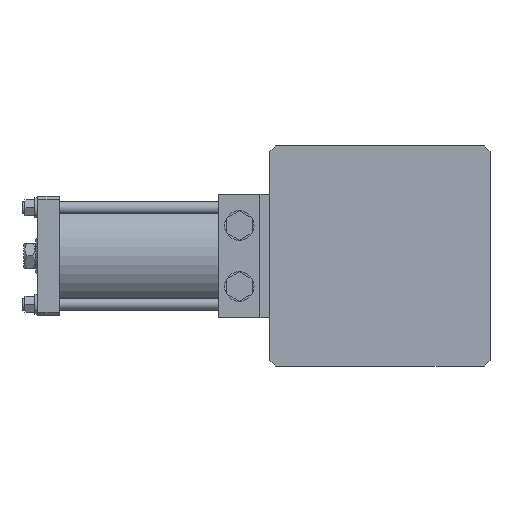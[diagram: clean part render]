
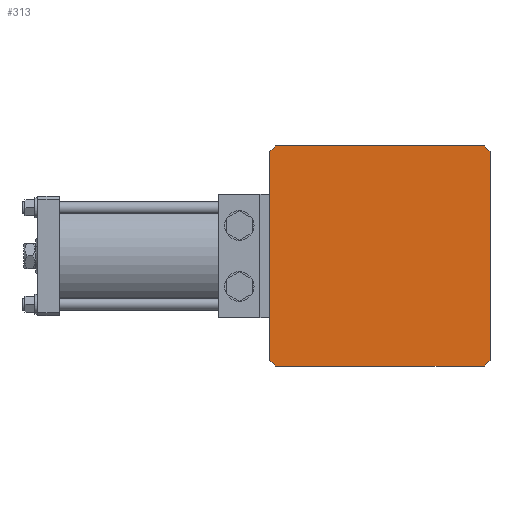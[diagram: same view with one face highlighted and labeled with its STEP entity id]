
A CAD part, front view. The second image highlights one B-rep face of the part: STEP entity #313.
In plain terms, the highlighted planar face has unit normal (0, -1, 0).
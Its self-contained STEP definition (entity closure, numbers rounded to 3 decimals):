
#28 = EDGE_CURVE ( 'NONE', #117, #9717, #4214, .T. ) ;
#117 = VERTEX_POINT ( 'NONE', #8187 ) ;
#313 = ADVANCED_FACE ( 'NONE', ( #8251 ), #4562, .F. ) ;
#530 = DIRECTION ( 'NONE',  ( 0., 0., 1. ) ) ;
#585 = VECTOR ( 'NONE', #530, 1000. ) ;
#613 = DIRECTION ( 'NONE',  ( 1., 0., 0. ) ) ;
#657 = CARTESIAN_POINT ( 'NONE',  ( 56., 0., 56. ) ) ;
#1407 = VERTEX_POINT ( 'NONE', #3390 ) ;
#1622 = CARTESIAN_POINT ( 'NONE',  ( 56., 0., 53. ) ) ;
#1668 = EDGE_CURVE ( 'NONE', #5667, #10205, #3327, .T. ) ;
#1704 = ORIENTED_EDGE ( 'NONE', *, *, #2023, .F. ) ;
#1789 = VECTOR ( 'NONE', #4190, 1000. ) ;
#1855 = CARTESIAN_POINT ( 'NONE',  ( 56., 0., -56. ) ) ;
#2023 = EDGE_CURVE ( 'NONE', #8799, #7524, #9387, .T. ) ;
#2207 = DIRECTION ( 'NONE',  ( 0., 0., 1. ) ) ;
#2241 = CARTESIAN_POINT ( 'NONE',  ( 0., 0., 0. ) ) ;
#2850 = DIRECTION ( 'NONE',  ( -0.707, 0., -0.707 ) ) ;
#2855 = LINE ( 'NONE', #4583, #4784 ) ;
#3019 = LINE ( 'NONE', #657, #4974 ) ;
#3030 = EDGE_CURVE ( 'NONE', #10205, #1407, #9400, .T. ) ;
#3327 = LINE ( 'NONE', #1622, #3965 ) ;
#3331 = VECTOR ( 'NONE', #4024, 1000. ) ;
#3390 = CARTESIAN_POINT ( 'NONE',  ( 56., 0., -53. ) ) ;
#3869 = ORIENTED_EDGE ( 'NONE', *, *, #6816, .F. ) ;
#3965 = VECTOR ( 'NONE', #9896, 1000. ) ;
#4024 = DIRECTION ( 'NONE',  ( 0., 0., -1. ) ) ;
#4038 = EDGE_CURVE ( 'NONE', #7524, #7769, #2855, .T. ) ;
#4190 = DIRECTION ( 'NONE',  ( -0.707, 0., 0.707 ) ) ;
#4214 = LINE ( 'NONE', #1855, #10504 ) ;
#4562 = PLANE ( 'NONE',  #10629 ) ;
#4583 = CARTESIAN_POINT ( 'NONE',  ( -56., 0., 53. ) ) ;
#4784 = VECTOR ( 'NONE', #8718, 1000. ) ;
#4974 = VECTOR ( 'NONE', #613, 1000. ) ;
#5456 = DIRECTION ( 'NONE',  ( -1., 0., 0. ) ) ;
#5464 = CARTESIAN_POINT ( 'NONE',  ( -56., 0., 56. ) ) ;
#5490 = ORIENTED_EDGE ( 'NONE', *, *, #4038, .F. ) ;
#5533 = DIRECTION ( 'NONE',  ( 0., 1., 0. ) ) ;
#5667 = VERTEX_POINT ( 'NONE', #5815 ) ;
#5775 = CARTESIAN_POINT ( 'NONE',  ( -53., 0., 56. ) ) ;
#5815 = CARTESIAN_POINT ( 'NONE',  ( 53., 0., 56. ) ) ;
#5832 = ORIENTED_EDGE ( 'NONE', *, *, #1668, .F. ) ;
#6146 = ORIENTED_EDGE ( 'NONE', *, *, #7794, .F. ) ;
#6174 = CARTESIAN_POINT ( 'NONE',  ( -56., 0., 53. ) ) ;
#6816 = EDGE_CURVE ( 'NONE', #7769, #5667, #3019, .T. ) ;
#6907 = LINE ( 'NONE', #8660, #8962 ) ;
#7524 = VERTEX_POINT ( 'NONE', #6174 ) ;
#7769 = VERTEX_POINT ( 'NONE', #5775 ) ;
#7794 = EDGE_CURVE ( 'NONE', #9717, #8799, #8421, .T. ) ;
#8187 = CARTESIAN_POINT ( 'NONE',  ( 53., 0., -56. ) ) ;
#8251 = FACE_OUTER_BOUND ( 'NONE', #9679, .T. ) ;
#8421 = LINE ( 'NONE', #9955, #1789 ) ;
#8518 = ORIENTED_EDGE ( 'NONE', *, *, #10669, .F. ) ;
#8520 = ORIENTED_EDGE ( 'NONE', *, *, #3030, .F. ) ;
#8660 = CARTESIAN_POINT ( 'NONE',  ( 56., 0., -53. ) ) ;
#8718 = DIRECTION ( 'NONE',  ( 0.707, 0., 0.707 ) ) ;
#8799 = VERTEX_POINT ( 'NONE', #9705 ) ;
#8962 = VECTOR ( 'NONE', #2850, 1000. ) ;
#9387 = LINE ( 'NONE', #5464, #585 ) ;
#9400 = LINE ( 'NONE', #9788, #3331 ) ;
#9479 = ORIENTED_EDGE ( 'NONE', *, *, #28, .F. ) ;
#9593 = CARTESIAN_POINT ( 'NONE',  ( 56., 0., 53. ) ) ;
#9679 = EDGE_LOOP ( 'NONE', ( #1704, #6146, #9479, #8518, #8520, #5832, #3869, #5490 ) ) ;
#9705 = CARTESIAN_POINT ( 'NONE',  ( -56., 0., -53. ) ) ;
#9717 = VERTEX_POINT ( 'NONE', #9949 ) ;
#9788 = CARTESIAN_POINT ( 'NONE',  ( 56., 0., 56. ) ) ;
#9896 = DIRECTION ( 'NONE',  ( 0.707, 0., -0.707 ) ) ;
#9949 = CARTESIAN_POINT ( 'NONE',  ( -53., 0., -56. ) ) ;
#9955 = CARTESIAN_POINT ( 'NONE',  ( -56., 0., -53. ) ) ;
#10205 = VERTEX_POINT ( 'NONE', #9593 ) ;
#10504 = VECTOR ( 'NONE', #5456, 1000. ) ;
#10629 = AXIS2_PLACEMENT_3D ( 'NONE', #2241, #5533, #2207 ) ;
#10669 = EDGE_CURVE ( 'NONE', #1407, #117, #6907, .T. ) ;
